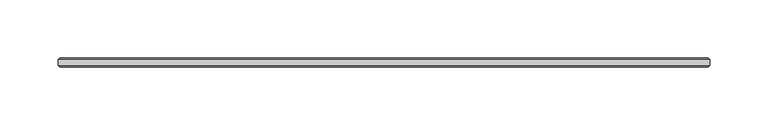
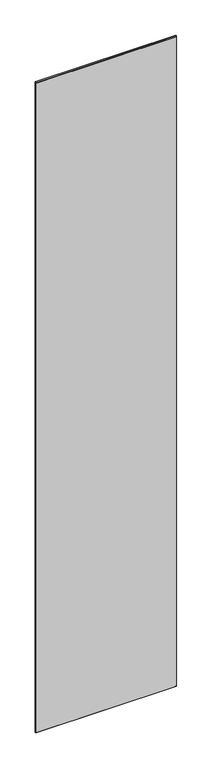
"""IFC4 building model written with IfcOpenShell, lengths in millimetres: plate geometry, 1-AMG-1-Панель одинарный витраж 8, 10 : Смещение 32 Толщина 8mm."""

from ifc_helpers import new_model, si_unit, origin, place, context, project, spatial, faceted_brep, source, transform, mapped, element, save


def plate_32f0bc6f(model_context):
    return source(origin(), model_context, "Body", "Brep", [
        faceted_brep([(280.0, 29.5038347, 2722.8), (280.0, 34.4961653, 2722.8), (-280.0, 34.4961653, 2722.8), (-280.0, 29.5038347, 2722.8), (280.0, 34.4961653, -7.0), (280.0, 29.5038347, -7.0), (-280.0, 29.5038347, -7.0), (-280.0, 34.4961653, -7.0), (-278.4961653, 36.0, 2721.2961653), (278.4961653, 36.0, 2721.2961653), (278.4961653, 36.0, -5.5039422), (-278.4961653, 36.0, -5.5039422), (278.4961653, 28.0, 2721.2961653), (-278.4961653, 28.0, 2721.2961653), (-278.4961653, 28.0, -5.4961653), (278.4961653, 28.0, -5.4961653)], [[[0, 1, 2, 3]], [[4, 5, 6, 7]], [[8, 9, 10, 11]], [[3, 2, 7, 6]], [[12, 13, 14, 15]], [[1, 0, 5, 4]], [[1, 4, 10, 9]], [[5, 0, 12, 15]], [[7, 2, 8, 11]], [[3, 6, 14, 13]], [[0, 3, 13, 12]], [[2, 1, 9, 8]], [[6, 5, 15, 14]], [[4, 7, 11, 10]]]),
    ])


if __name__ == "__main__":
    model = new_model("IFC4")
    model_context = context("Model", 3, world=origin())
    ifc_project = project(units=[si_unit("LENGTHUNIT", "METRE", prefix="MILLI")], contexts=[model_context])
    site = spatial("IfcSite", under=ifc_project)
    building = spatial("IfcBuilding", under=site)
    placement = place(None, origin())
    plate_shape = plate_32f0bc6f(model_context)
    element("IfcPlate", 1, ObjectType="1-AMG-1-Панель одинарный витраж 8, 10 : Смещение 32 Толщина 8mm", at=placement, inside=building, context=model_context, shape_type="MappedRepresentation", body=[
        mapped(plate_shape, transform((0.0, 0.0, 0.0), x_axis=(1.0, 0.0, 0.0), y_axis=(0.0, 1.0, 0.0), z_axis=(0.0, 0.0, 1.0))),
    ])
    save(model, "model.ifc")
